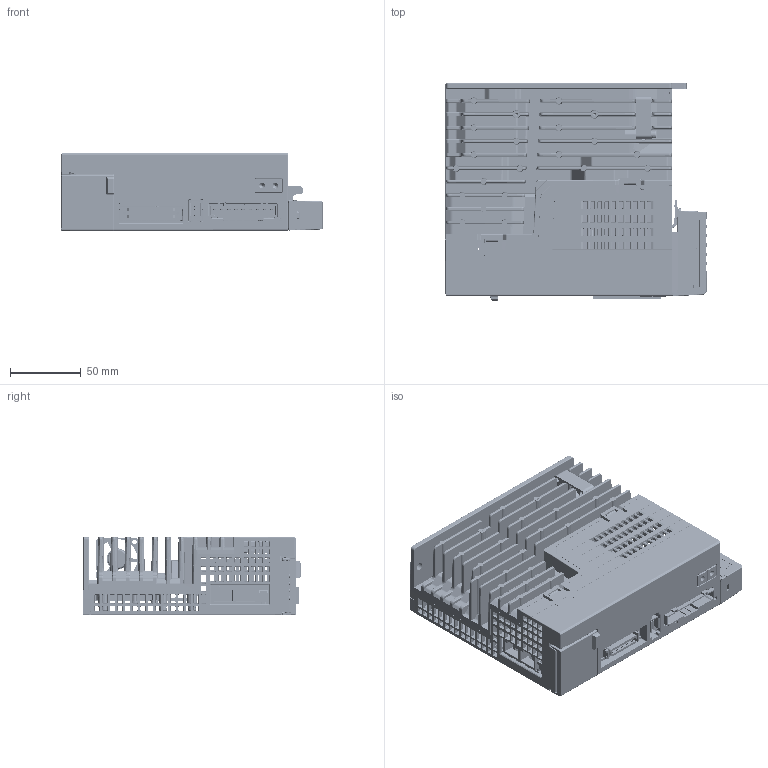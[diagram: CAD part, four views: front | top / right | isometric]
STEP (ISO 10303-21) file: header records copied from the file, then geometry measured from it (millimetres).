
FILE_DESCRIPTION((''),'2;1');
FILE_NAME('PRT0002','2023-02-28T11:14:52',('RD0058'),(''),'CREO PARAMETRIC BY PTC INC, 2016510','CREO PARAMETRIC BY PTC INC, 2016510','');
FILE_SCHEMA(('CONFIG_CONTROL_DESIGN','SHAPE_APPEARANCE_LAYERS_GROUPS'));
Products named in the file (1): PRT0002
Bounding box: 184 x 153 x 55 mm (x, y, z)
Surface area: 272312.8 mm2 (no closed solid volume)
Topology: 0 solids, 30 shells, 9431 faces, 26165 edges, 16960 vertices
Faces by surface type: plane 5716, cylinder 2629, cone 413, torus 391, bspline 238, sphere 22, extrusion 22
Entity records: 355715 total; most frequent: CARTESIAN_POINT 80108, ORIENTED_EDGE 52226, DIRECTION 43681, EDGE_CURVE 26113, VECTOR 18141, LINE 18119, VERTEX_POINT 16960, AXIS2_PLACEMENT_3D 12770
